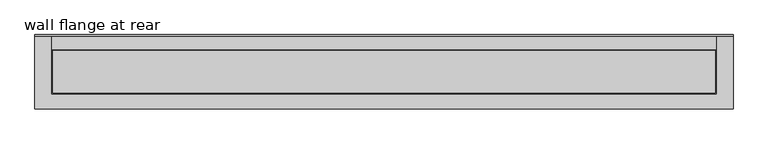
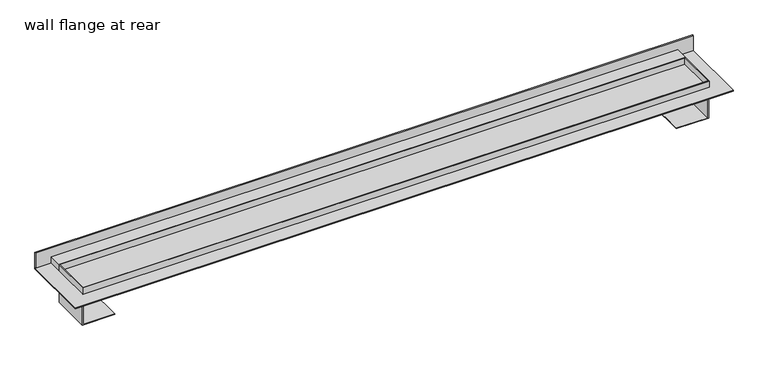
"""IFC4 building model written with IfcOpenShell, lengths in millimetres: sanitary terminal geometry, PF_ST_UN_ShowerDrain M_ACO : wall flange at rear."""

import ifcopenshell
import ifcopenshell.guid

model = None  # the IFC model being written
_history = None  # IfcOwnerHistory: only IFC2X3 demands one
_inside = {}  # id of a spatial element -> (the spatial element, [elements in it])
_under = {}  # id of a project, library or spatial element -> (it, [spatial elements below it])
_declared = {}  # id of a project -> (the project, [libraries it declares])
_typed = {}  # id of a type object -> (the type object, [elements of that type])
_made_of = {}  # id of a material, layer set ... -> (it, [elements and type objects made of it])


def new_model(schema):
    """Start an empty IFC model of exactly this schema.

    Asked for "IFC4X3", IfcOpenShell would pick the latest addendum, in which some entities
    have other attributes; the version numbers below select the first issue.
    IFC2X3 requires an IfcOwnerHistory on every rooted entity: one is made here for all.
    """
    global model, _history
    if schema == "IFC4X3":
        model = ifcopenshell.file(schema_version=(4, 3, 0, 0))
    else:
        model = ifcopenshell.file(schema=schema)
    _inside.clear()
    _under.clear()
    _declared.clear()
    _typed.clear()
    _made_of.clear()
    _history = None
    if model.schema == "IFC2X3":
        org = make("IfcOrganization", Name="unknown")
        user = make(
            "IfcPersonAndOrganization",
            ThePerson=make("IfcPerson", FamilyName="unknown"),
            TheOrganization=org,
        )
        app = make(
            "IfcApplication",
            ApplicationDeveloper=org,
            Version="unknown",
            ApplicationFullName="unknown",
            ApplicationIdentifier="unknown",
        )
        _history = make(
            "IfcOwnerHistory",
            OwningUser=user,
            OwningApplication=app,
            ChangeAction="ADDED",
            CreationDate=0,
        )
    return model


def make(cls, **values):
    """One entity of the class cls with the attributes given. An attribute that is None is left unset."""
    return model.create_entity(
        cls, **{name: value for name, value in values.items() if value is not None}
    )


def rooted(cls, **values):
    """An entity with a GlobalId (a new one), such as an element, a storey or a relation."""
    return make(cls, GlobalId=ifcopenshell.guid.new(), OwnerHistory=_history, **values)


def si_unit(unit_type, name, prefix=None):
    """IfcSIUnit, for example si_unit("LENGTHUNIT", "METRE", prefix="MILLI")."""
    return make("IfcSIUnit", UnitType=unit_type, Prefix=prefix, Name=name)


def assignment(units):
    """IfcUnitAssignment: the units of a project."""
    return None if units is None else make("IfcUnitAssignment", Units=units)


def point(xyz):
    """IfcCartesianPoint."""
    return None if xyz is None else make("IfcCartesianPoint", Coordinates=xyz)


def direction(xyz):
    """IfcDirection."""
    return None if xyz is None else make("IfcDirection", DirectionRatios=xyz)


def frame(location, z_axis=None, x_axis=None):
    """IfcAxis2Placement3D, a coordinate frame: its origin and axes. An axis left out is left unset."""
    return make(
        "IfcAxis2Placement3D",
        Location=point(location),
        Axis=direction(z_axis),
        RefDirection=direction(x_axis),
    )


def origin():
    """The frame at (0, 0, 0) with its axes left unset."""
    return frame((0.0, 0.0, 0.0))


def origin_with_axes():
    """The frame at (0, 0, 0) with the z axis (0, 0, 1) and the x axis (1, 0, 0) written out."""
    return frame((0.0, 0.0, 0.0), z_axis=(0.0, 0.0, 1.0), x_axis=(1.0, 0.0, 0.0))


def place(relative_to, where):
    """IfcLocalPlacement: puts the frame where relative to a parent placement (None: the world)."""
    return make(
        "IfcLocalPlacement", PlacementRelTo=relative_to, RelativePlacement=where
    )


def context(
    kind, dimensions, precision=None, world=None, true_north=None, identifier=None
):
    """IfcGeometricRepresentationContext, for example the 3D "Model" context."""
    return make(
        "IfcGeometricRepresentationContext",
        ContextIdentifier=identifier,
        ContextType=kind,
        CoordinateSpaceDimension=dimensions,
        Precision=precision,
        WorldCoordinateSystem=world,
        TrueNorth=true_north,
    )


def project(units=None, contexts=None):
    """IfcProject with its units and contexts."""
    return rooted(
        "IfcProject",
        Name="project",
        RepresentationContexts=contexts,
        UnitsInContext=assignment(units),
    )


def spatial(cls, under=None, at=None, **own):
    """A site, building, storey or space (cls), placed at a placement, below another one or the project."""
    s = rooted(cls, ObjectPlacement=at, **own)
    if under is not None:
        _under.setdefault(under.id(), (under, []))[1].append(s)
    return s


def polyline(points):
    """IfcPolyline through the points."""
    return make("IfcPolyline", Points=[point(p) for p in points])


def outline(outer, holes=None, kind="AREA"):
    """IfcArbitraryClosedProfileDef: a profile drawn as a closed curve; with holes, ...WithVoids."""
    if holes is None:
        return make("IfcArbitraryClosedProfileDef", ProfileType=kind, OuterCurve=outer)
    return make(
        "IfcArbitraryProfileDefWithVoids",
        ProfileType=kind,
        OuterCurve=outer,
        InnerCurves=holes,
    )


def extrude(swept, where, along, depth):
    """IfcExtrudedAreaSolid: the profile swept, set in the frame where, extruded along a direction by depth."""
    return make(
        "IfcExtrudedAreaSolid",
        SweptArea=swept,
        Position=where,
        ExtrudedDirection=direction(along),
        Depth=depth,
    )


def faces_of(points, faces, orient=None, outer=None):
    """IfcFace entities. A face is a list of loops; a loop is a list of indices into points, from 0.

    orient and outer hold one flag for each loop. By default every Orientation is true, the
    first loop of a face is its IfcFaceOuterBound and the others are IfcFaceBound.
    """
    made = []
    for i, loops in enumerate(faces):
        bounds = []
        for j, loop in enumerate(loops):
            is_outer = j == 0 if outer is None else outer[i][j]
            bounds.append(
                make(
                    "IfcFaceOuterBound" if is_outer else "IfcFaceBound",
                    Bound=make("IfcPolyLoop", Polygon=[points[k] for k in loop]),
                    Orientation=True if orient is None else orient[i][j],
                )
            )
        made.append(make("IfcFace", Bounds=bounds))
    return made


def faceted_brep(points, faces, orient=None, outer=None, voids=None):
    """IfcFacetedBrep: a solid bounded by flat faces; with voids (closed shells), ...WithVoids."""
    shared = [point(p) for p in points]
    hull = make("IfcClosedShell", CfsFaces=faces_of(shared, faces, orient, outer))
    if voids is None:
        return make("IfcFacetedBrep", Outer=hull)
    return make(
        "IfcFacetedBrepWithVoids",
        Outer=hull,
        Voids=[
            make(cls, CfsFaces=faces_of(shared, fs, o, b)) for cls, fs, o, b in voids
        ],
    )


def shape(context_of_items, identifier, shape_type, items):
    """IfcShapeRepresentation: the items that make up one representation, for example the "Body"."""
    return make(
        "IfcShapeRepresentation",
        ContextOfItems=context_of_items,
        RepresentationIdentifier=identifier,
        RepresentationType=shape_type,
        Items=items,
    )


def source(mapping_origin, context_of_items, identifier, shape_type, items):
    """IfcRepresentationMap: a shape defined once, which mapped items show again and again."""
    return make(
        "IfcRepresentationMap",
        MappingOrigin=mapping_origin,
        MappedRepresentation=shape(context_of_items, identifier, shape_type, items),
    )


def transform(
    local_origin,
    x_axis=None,
    y_axis=None,
    z_axis=None,
    scale=None,
    scale2=None,
    scale3=None,
    uniform=True,
):
    """IfcCartesianTransformationOperator3D, or its non-uniform kind. x_axis, y_axis, z_axis: its Axis1, 2, 3."""
    if uniform:
        return make(
            "IfcCartesianTransformationOperator3D",
            Axis1=direction(x_axis),
            Axis2=direction(y_axis),
            LocalOrigin=point(local_origin),
            Scale=scale,
            Axis3=direction(z_axis),
        )
    return make(
        "IfcCartesianTransformationOperator3DnonUniform",
        Axis1=direction(x_axis),
        Axis2=direction(y_axis),
        LocalOrigin=point(local_origin),
        Scale=scale,
        Axis3=direction(z_axis),
        Scale2=scale2,
        Scale3=scale3,
    )


def mapped(mapping_source, mapping_target):
    """IfcMappedItem: shows the shape of a source again, moved by a transform."""
    return make(
        "IfcMappedItem", MappingSource=mapping_source, MappingTarget=mapping_target
    )


def made_of(thing, what):
    """Note that an element or type object is made of a material, layer set ...; save() writes the relation."""
    if what is not None:
        _made_of.setdefault(what.id(), (what, []))[1].append(thing)
    return thing


def element(
    cls,
    number,
    at=None,
    inside=None,
    cuts=None,
    type_object=None,
    material=None,
    context=None,
    identifier="Body",
    shape_type=None,
    held_by="IfcProductDefinitionShape",
    body=None,
    shapes=None,
    **own,
):
    """One element of the class cls, such as IfcWall. Its Tag is "e" and its number.

    at: its placement. inside: the storey or other place that contains it. cuts: it is an
    opening in that element (IfcRelVoidsElement). A single representation is given by context,
    identifier, shape_type and body (its items); several are given by shapes. held_by: the class
    of the entity that holds the representations. save() writes the other relations.
    """
    e = rooted(cls, Tag="e%d" % number, ObjectPlacement=at, **own)
    if body is not None:
        shapes = [shape(context, identifier, shape_type, body)]
    if shapes is not None:
        e.Representation = make(held_by, Representations=shapes)
    if inside is not None:
        _inside.setdefault(inside.id(), (inside, []))[1].append(e)
    if cuts is not None:
        rooted(
            "IfcRelVoidsElement", RelatingBuildingElement=cuts, RelatedOpeningElement=e
        )
    if type_object is not None:
        _typed.setdefault(type_object.id(), (type_object, []))[1].append(e)
    return made_of(e, material)


def aggregate(whole, parts):
    """IfcRelAggregates: a whole, such as a stair, and the parts it consists of."""
    return rooted("IfcRelAggregates", RelatingObject=whole, RelatedObjects=parts)


def save(model, path):
    """Write the relations noted so far, then the file.

    IfcRelAggregates (storeys below a building ...), IfcRelContainedInSpatialStructure (elements
    in a storey), IfcRelDefinesByType, IfcRelAssociatesMaterial and IfcRelDeclares: one each for
    every whole, place, type object, material and project.
    """
    for whole, parts in _under.values():
        aggregate(whole, parts)
    for where, things in _inside.values():
        rooted(
            "IfcRelContainedInSpatialStructure",
            RelatedElements=things,
            RelatingStructure=where,
        )
    for kind, things in _typed.values():
        rooted("IfcRelDefinesByType", RelatedObjects=things, RelatingType=kind)
    for what, things in _made_of.values():
        rooted("IfcRelAssociatesMaterial", RelatedObjects=things, RelatingMaterial=what)
    for by, libraries in _declared.values():
        rooted("IfcRelDeclares", RelatingContext=by, RelatedDefinitions=libraries)
    model.write(path)


def wall_flange_at_rear_4234e671(model_context):
    return source(origin(), model_context, "Body", "SolidModel", [
        extrude(outline(polyline([(630.0, 67.0), (630.0, -67.0), (-630.0, -67.0), (-630.0, 67.0), (630.0, 67.0)])), origin_with_axes(), (0.0, 0.0, 1.0), 2.0),
        extrude(outline(polyline([(-16.5, -598.0), (-16.5, -600.0), (-61.5, -600.0), (-61.5, -538.0), (-60.5, -538.0), (-60.5, -598.0), (-16.5, -598.0)])), frame((0.0, -38.0, 0.0), z_axis=(0.0, 1.0, 0.0), x_axis=(0.0, 0.0, 1.0)), (0.0, 0.0, 1.0), 76.0),
        extrude(outline(polyline([(-16.5, 598.0), (-60.5, 598.0), (-60.5, 538.0), (-61.5, 538.0), (-61.5, 600.0), (-16.5, 600.0), (-16.5, 598.0)])), frame((0.0, -38.0, 0.0), z_axis=(0.0, 1.0, 0.0), x_axis=(0.0, 0.0, 1.0)), (0.0, 0.0, 1.0), 76.0),
        faceted_brep([(-600.0, 65.0, 15.0), (-600.0, 40.0, 15.0), (600.0, 40.0, 15.0), (600.0, 65.0, 15.0), (600.0, 65.0, 2.0), (600.0, 40.0, 2.0), (-600.0, 40.0, 2.0), (-600.0, 65.0, 2.0), (630.0, 67.0, 33.0), (-630.0, 67.0, 33.0), (-630.0, 65.0, 33.0), (630.0, 65.0, 33.0), (630.0, 67.0, 0.0), (630.0, 65.0, 0.0), (-630.0, 65.0, 0.0), (-630.0, 67.0, 0.0)], [[[0, 1, 2, 3]], [[4, 5, 6, 7]], [[1, 0, 7, 6]], [[2, 1, 6, 5]], [[3, 2, 5, 4]], [[8, 9, 10, 11]], [[12, 13, 14, 15]], [[9, 8, 12, 15]], [[10, 9, 15, 14]], [[11, 10, 14, 13], [0, 3, 4, 7]], [[8, 11, 13, 12]]]),
        faceted_brep([(600.0, 40.0, 15.0), (-600.0, 40.0, 15.0), (-600.0, -40.0, 15.0), (600.0, -40.0, 15.0), (-598.0, -38.0, 15.0), (-598.0, 38.0, 15.0), (598.0, 38.0, 15.0), (598.0, -38.0, 15.0), (600.0, 40.0, -16.5), (600.0, -40.0, -16.5), (-600.0, -40.0, -16.5), (-600.0, 40.0, -16.5), (-598.0, 38.0, -6.0), (-598.0, -38.0, -6.0), (598.0, -38.0, -6.0), (598.0, 38.0, -6.0)], [[[0, 1, 2, 3], [4, 5, 6, 7]], [[8, 9, 10, 11]], [[1, 0, 8, 11]], [[2, 1, 11, 10]], [[3, 2, 10, 9]], [[0, 3, 9, 8]], [[12, 13, 14, 15]], [[13, 12, 5, 4]], [[14, 13, 4, 7]], [[15, 14, 7, 6]], [[12, 15, 6, 5]]]),
    ])


if __name__ == "__main__":
    model = new_model("IFC4")
    model_context = context("Model", 3, world=origin())
    ifc_project = project(units=[si_unit("LENGTHUNIT", "METRE", prefix="MILLI")], contexts=[model_context])
    site = spatial("IfcSite", under=ifc_project)
    building = spatial("IfcBuilding", under=site)
    placement = place(None, origin())
    wall_flange_at_rear_shape = wall_flange_at_rear_4234e671(model_context)
    element("IfcSanitaryTerminal", 1, ObjectType="PF_ST_UN_ShowerDrain M_ACO : wall flange at rear", at=placement, inside=building, context=model_context, shape_type="MappedRepresentation", body=[
        mapped(wall_flange_at_rear_shape, transform((0.0, 0.0, 0.0), x_axis=(1.0, 0.0, 0.0), y_axis=(0.0, 1.0, 0.0), z_axis=(0.0, 0.0, 1.0))),
    ])
    save(model, "model.ifc")
